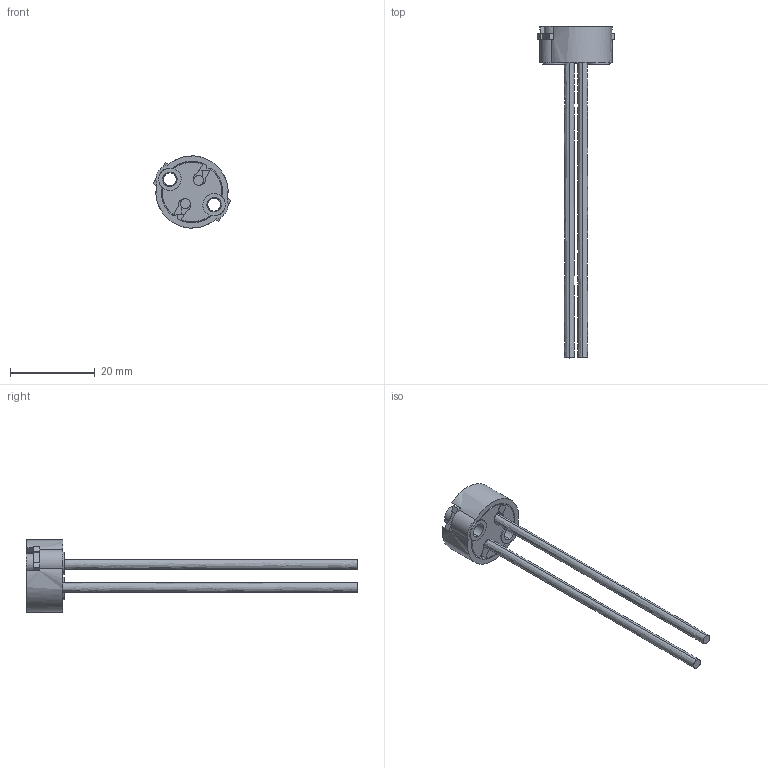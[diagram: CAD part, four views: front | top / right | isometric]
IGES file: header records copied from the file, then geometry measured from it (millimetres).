
Global section: file name: C:\CoreTechnologie\3D-in\002Y028Y04.igs; native system: CT CoreTechnologie 3D Evolution; preprocessor: 2006; author: assmuth; date: 1160325.104332; units: millimetre
Bounding box: 18.32 x 78.2 x 17 mm (x, y, z)
Surface area: 2740.9 mm2 (no closed solid volume)
Topology: 0 solids, 0 shells, 220 faces, 1178 edges, 1174 vertices
Faces by surface type: bspline 220
